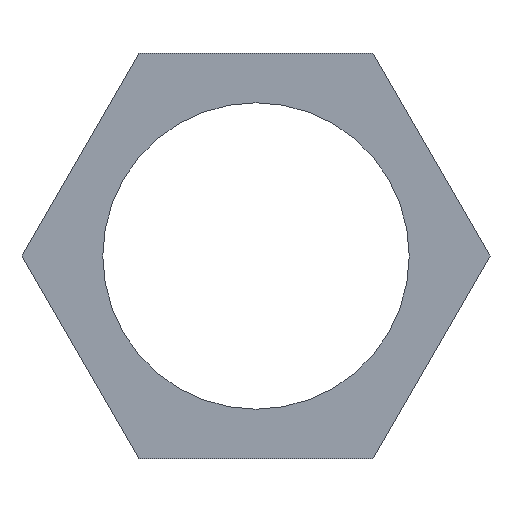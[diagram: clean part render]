
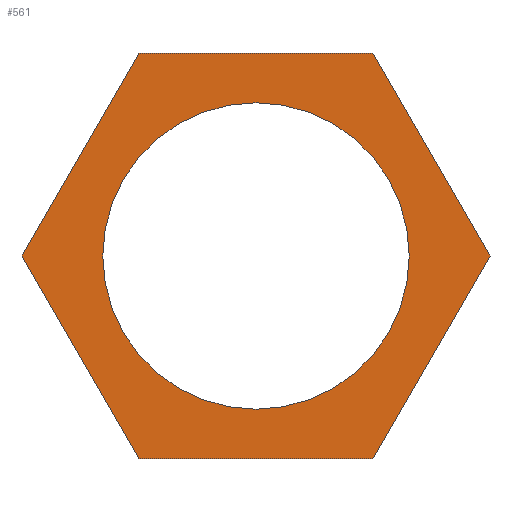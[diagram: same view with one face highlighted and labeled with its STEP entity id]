
A CAD part, left-side view. The second image highlights one B-rep face of the part: STEP entity #561.
In plain terms, the highlighted planar face has unit normal (-1, 0, 0).
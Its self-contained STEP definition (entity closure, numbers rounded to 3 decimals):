
#22 = VERTEX_POINT('',#23);
#23 = CARTESIAN_POINT('',(-5.48,7.332,12.));
#32 = PLANE('',#33);
#33 = AXIS2_PLACEMENT_3D('',#34,#35,#36);
#34 = CARTESIAN_POINT('',(-5.48,7.332,12.));
#35 = DIRECTION('',(0.,-0.866,-0.5));
#36 = DIRECTION('',(0.,-0.5,0.866));
#44 = PLANE('',#45);
#45 = AXIS2_PLACEMENT_3D('',#46,#47,#48);
#46 = CARTESIAN_POINT('',(-5.48,3.666,5.65));
#47 = DIRECTION('',(0.,-0.866,0.5));
#48 = DIRECTION('',(0.,0.5,0.866));
#85 = VERTEX_POINT('',#86);
#86 = CARTESIAN_POINT('',(-5.48,3.666,18.35));
#100 = PLANE('',#101);
#101 = AXIS2_PLACEMENT_3D('',#102,#103,#104);
#102 = CARTESIAN_POINT('',(-5.48,3.666,18.35));
#103 = DIRECTION('',(0.,0.,-1.));
#104 = DIRECTION('',(0.,-1.,0.));
#112 = EDGE_CURVE('',#22,#85,#113,.T.);
#113 = SURFACE_CURVE('',#114,(#118,#125),.PCURVE_S1.);
#114 = LINE('',#115,#116);
#115 = CARTESIAN_POINT('',(-5.48,7.332,12.));
#116 = VECTOR('',#117,1.);
#117 = DIRECTION('',(0.,-0.5,0.866));
#118 = PCURVE('',#32,#119);
#119 = DEFINITIONAL_REPRESENTATION('',(#120),#124);
#120 = LINE('',#121,#122);
#121 = CARTESIAN_POINT('',(0.,0.));
#122 = VECTOR('',#123,1.);
#123 = DIRECTION('',(1.,0.));
#124 = ( GEOMETRIC_REPRESENTATION_CONTEXT(2) 
PARAMETRIC_REPRESENTATION_CONTEXT() REPRESENTATION_CONTEXT('2D SPACE',''
  ) );
#125 = PCURVE('',#126,#131);
#126 = PLANE('',#127);
#127 = AXIS2_PLACEMENT_3D('',#128,#129,#130);
#128 = CARTESIAN_POINT('',(-5.48,0.,12.));
#129 = DIRECTION('',(1.,0.,0.));
#130 = DIRECTION('',(-0.,0.,1.));
#131 = DEFINITIONAL_REPRESENTATION('',(#132),#136);
#132 = LINE('',#133,#134);
#133 = CARTESIAN_POINT('',(0.,-7.332));
#134 = VECTOR('',#135,1.);
#135 = DIRECTION('',(0.866,0.5));
#136 = ( GEOMETRIC_REPRESENTATION_CONTEXT(2) 
PARAMETRIC_REPRESENTATION_CONTEXT() REPRESENTATION_CONTEXT('2D SPACE',''
  ) );
#166 = VERTEX_POINT('',#167);
#167 = CARTESIAN_POINT('',(-5.48,-3.666,18.35));
#181 = PLANE('',#182);
#182 = AXIS2_PLACEMENT_3D('',#183,#184,#185);
#183 = CARTESIAN_POINT('',(-5.48,-3.666,18.35));
#184 = DIRECTION('',(0.,0.866,-0.5));
#185 = DIRECTION('',(0.,-0.5,-0.866));
#193 = EDGE_CURVE('',#85,#166,#194,.T.);
#194 = SURFACE_CURVE('',#195,(#199,#206),.PCURVE_S1.);
#195 = LINE('',#196,#197);
#196 = CARTESIAN_POINT('',(-5.48,3.666,18.35));
#197 = VECTOR('',#198,1.);
#198 = DIRECTION('',(0.,-1.,0.));
#199 = PCURVE('',#100,#200);
#200 = DEFINITIONAL_REPRESENTATION('',(#201),#205);
#201 = LINE('',#202,#203);
#202 = CARTESIAN_POINT('',(0.,0.));
#203 = VECTOR('',#204,1.);
#204 = DIRECTION('',(1.,0.));
#205 = ( GEOMETRIC_REPRESENTATION_CONTEXT(2) 
PARAMETRIC_REPRESENTATION_CONTEXT() REPRESENTATION_CONTEXT('2D SPACE',''
  ) );
#206 = PCURVE('',#126,#207);
#207 = DEFINITIONAL_REPRESENTATION('',(#208),#212);
#208 = LINE('',#209,#210);
#209 = CARTESIAN_POINT('',(6.35,-3.666));
#210 = VECTOR('',#211,1.);
#211 = DIRECTION('',(0.,1.));
#212 = ( GEOMETRIC_REPRESENTATION_CONTEXT(2) 
PARAMETRIC_REPRESENTATION_CONTEXT() REPRESENTATION_CONTEXT('2D SPACE',''
  ) );
#242 = VERTEX_POINT('',#243);
#243 = CARTESIAN_POINT('',(-5.48,-7.332,12.));
#257 = PLANE('',#258);
#258 = AXIS2_PLACEMENT_3D('',#259,#260,#261);
#259 = CARTESIAN_POINT('',(-5.48,-7.332,12.));
#260 = DIRECTION('',(-0.,0.866,0.5));
#261 = DIRECTION('',(0.,0.5,-0.866));
#269 = EDGE_CURVE('',#166,#242,#270,.T.);
#270 = SURFACE_CURVE('',#271,(#275,#282),.PCURVE_S1.);
#271 = LINE('',#272,#273);
#272 = CARTESIAN_POINT('',(-5.48,-3.666,18.35));
#273 = VECTOR('',#274,1.);
#274 = DIRECTION('',(0.,-0.5,-0.866));
#275 = PCURVE('',#181,#276);
#276 = DEFINITIONAL_REPRESENTATION('',(#277),#281);
#277 = LINE('',#278,#279);
#278 = CARTESIAN_POINT('',(0.,0.));
#279 = VECTOR('',#280,1.);
#280 = DIRECTION('',(1.,0.));
#281 = ( GEOMETRIC_REPRESENTATION_CONTEXT(2) 
PARAMETRIC_REPRESENTATION_CONTEXT() REPRESENTATION_CONTEXT('2D SPACE',''
  ) );
#282 = PCURVE('',#126,#283);
#283 = DEFINITIONAL_REPRESENTATION('',(#284),#288);
#284 = LINE('',#285,#286);
#285 = CARTESIAN_POINT('',(6.35,3.666));
#286 = VECTOR('',#287,1.);
#287 = DIRECTION('',(-0.866,0.5));
#288 = ( GEOMETRIC_REPRESENTATION_CONTEXT(2) 
PARAMETRIC_REPRESENTATION_CONTEXT() REPRESENTATION_CONTEXT('2D SPACE',''
  ) );
#318 = VERTEX_POINT('',#319);
#319 = CARTESIAN_POINT('',(-5.48,-3.666,5.65));
#333 = PLANE('',#334);
#334 = AXIS2_PLACEMENT_3D('',#335,#336,#337);
#335 = CARTESIAN_POINT('',(-5.48,-3.666,5.65));
#336 = DIRECTION('',(-0.,0.,1.));
#337 = DIRECTION('',(0.,1.,0.));
#345 = EDGE_CURVE('',#242,#318,#346,.T.);
#346 = SURFACE_CURVE('',#347,(#351,#358),.PCURVE_S1.);
#347 = LINE('',#348,#349);
#348 = CARTESIAN_POINT('',(-5.48,-7.332,12.));
#349 = VECTOR('',#350,1.);
#350 = DIRECTION('',(0.,0.5,-0.866));
#351 = PCURVE('',#257,#352);
#352 = DEFINITIONAL_REPRESENTATION('',(#353),#357);
#353 = LINE('',#354,#355);
#354 = CARTESIAN_POINT('',(0.,0.));
#355 = VECTOR('',#356,1.);
#356 = DIRECTION('',(1.,0.));
#357 = ( GEOMETRIC_REPRESENTATION_CONTEXT(2) 
PARAMETRIC_REPRESENTATION_CONTEXT() REPRESENTATION_CONTEXT('2D SPACE',''
  ) );
#358 = PCURVE('',#126,#359);
#359 = DEFINITIONAL_REPRESENTATION('',(#360),#364);
#360 = LINE('',#361,#362);
#361 = CARTESIAN_POINT('',(0.,7.332));
#362 = VECTOR('',#363,1.);
#363 = DIRECTION('',(-0.866,-0.5));
#364 = ( GEOMETRIC_REPRESENTATION_CONTEXT(2) 
PARAMETRIC_REPRESENTATION_CONTEXT() REPRESENTATION_CONTEXT('2D SPACE',''
  ) );
#394 = VERTEX_POINT('',#395);
#395 = CARTESIAN_POINT('',(-5.48,3.666,5.65));
#416 = EDGE_CURVE('',#318,#394,#417,.T.);
#417 = SURFACE_CURVE('',#418,(#422,#429),.PCURVE_S1.);
#418 = LINE('',#419,#420);
#419 = CARTESIAN_POINT('',(-5.48,-3.666,5.65));
#420 = VECTOR('',#421,1.);
#421 = DIRECTION('',(0.,1.,0.));
#422 = PCURVE('',#333,#423);
#423 = DEFINITIONAL_REPRESENTATION('',(#424),#428);
#424 = LINE('',#425,#426);
#425 = CARTESIAN_POINT('',(0.,0.));
#426 = VECTOR('',#427,1.);
#427 = DIRECTION('',(1.,0.));
#428 = ( GEOMETRIC_REPRESENTATION_CONTEXT(2) 
PARAMETRIC_REPRESENTATION_CONTEXT() REPRESENTATION_CONTEXT('2D SPACE',''
  ) );
#429 = PCURVE('',#126,#430);
#430 = DEFINITIONAL_REPRESENTATION('',(#431),#435);
#431 = LINE('',#432,#433);
#432 = CARTESIAN_POINT('',(-6.35,3.666));
#433 = VECTOR('',#434,1.);
#434 = DIRECTION('',(0.,-1.));
#435 = ( GEOMETRIC_REPRESENTATION_CONTEXT(2) 
PARAMETRIC_REPRESENTATION_CONTEXT() REPRESENTATION_CONTEXT('2D SPACE',''
  ) );
#463 = EDGE_CURVE('',#394,#22,#464,.T.);
#464 = SURFACE_CURVE('',#465,(#469,#476),.PCURVE_S1.);
#465 = LINE('',#466,#467);
#466 = CARTESIAN_POINT('',(-5.48,3.666,5.65));
#467 = VECTOR('',#468,1.);
#468 = DIRECTION('',(0.,0.5,0.866));
#469 = PCURVE('',#44,#470);
#470 = DEFINITIONAL_REPRESENTATION('',(#471),#475);
#471 = LINE('',#472,#473);
#472 = CARTESIAN_POINT('',(0.,0.));
#473 = VECTOR('',#474,1.);
#474 = DIRECTION('',(1.,0.));
#475 = ( GEOMETRIC_REPRESENTATION_CONTEXT(2) 
PARAMETRIC_REPRESENTATION_CONTEXT() REPRESENTATION_CONTEXT('2D SPACE',''
  ) );
#476 = PCURVE('',#126,#477);
#477 = DEFINITIONAL_REPRESENTATION('',(#478),#482);
#478 = LINE('',#479,#480);
#479 = CARTESIAN_POINT('',(-6.35,-3.666));
#480 = VECTOR('',#481,1.);
#481 = DIRECTION('',(0.866,-0.5));
#482 = ( GEOMETRIC_REPRESENTATION_CONTEXT(2) 
PARAMETRIC_REPRESENTATION_CONTEXT() REPRESENTATION_CONTEXT('2D SPACE',''
  ) );
#488 = VERTEX_POINT('',#489);
#489 = CARTESIAN_POINT('',(-5.48,4.8,12.));
#498 = CYLINDRICAL_SURFACE('',#499,4.8);
#499 = AXIS2_PLACEMENT_3D('',#500,#501,#502);
#500 = CARTESIAN_POINT('',(-5.48,0.,12.));
#501 = DIRECTION('',(-1.,-0.,-0.));
#502 = DIRECTION('',(0.,1.,0.));
#540 = EDGE_CURVE('',#488,#488,#541,.T.);
#541 = SURFACE_CURVE('',#542,(#547,#554),.PCURVE_S1.);
#542 = CIRCLE('',#543,4.8);
#543 = AXIS2_PLACEMENT_3D('',#544,#545,#546);
#544 = CARTESIAN_POINT('',(-5.48,0.,12.));
#545 = DIRECTION('',(1.,0.,0.));
#546 = DIRECTION('',(0.,1.,0.));
#547 = PCURVE('',#498,#548);
#548 = DEFINITIONAL_REPRESENTATION('',(#549),#553);
#549 = LINE('',#550,#551);
#550 = CARTESIAN_POINT('',(-0.,0.));
#551 = VECTOR('',#552,1.);
#552 = DIRECTION('',(-1.,0.));
#553 = ( GEOMETRIC_REPRESENTATION_CONTEXT(2) 
PARAMETRIC_REPRESENTATION_CONTEXT() REPRESENTATION_CONTEXT('2D SPACE',''
  ) );
#554 = PCURVE('',#126,#555);
#555 = DEFINITIONAL_REPRESENTATION('',(#556),#560);
#556 = CIRCLE('',#557,4.8);
#557 = AXIS2_PLACEMENT_2D('',#558,#559);
#558 = CARTESIAN_POINT('',(0.,0.));
#559 = DIRECTION('',(0.,-1.));
#560 = ( GEOMETRIC_REPRESENTATION_CONTEXT(2) 
PARAMETRIC_REPRESENTATION_CONTEXT() REPRESENTATION_CONTEXT('2D SPACE',''
  ) );
#561 = ADVANCED_FACE('',(#562,#570),#126,.F.);
#562 = FACE_BOUND('',#563,.F.);
#563 = EDGE_LOOP('',(#564,#565,#566,#567,#568,#569));
#564 = ORIENTED_EDGE('',*,*,#112,.T.);
#565 = ORIENTED_EDGE('',*,*,#193,.T.);
#566 = ORIENTED_EDGE('',*,*,#269,.T.);
#567 = ORIENTED_EDGE('',*,*,#345,.T.);
#568 = ORIENTED_EDGE('',*,*,#416,.T.);
#569 = ORIENTED_EDGE('',*,*,#463,.T.);
#570 = FACE_BOUND('',#571,.F.);
#571 = EDGE_LOOP('',(#572));
#572 = ORIENTED_EDGE('',*,*,#540,.F.);
